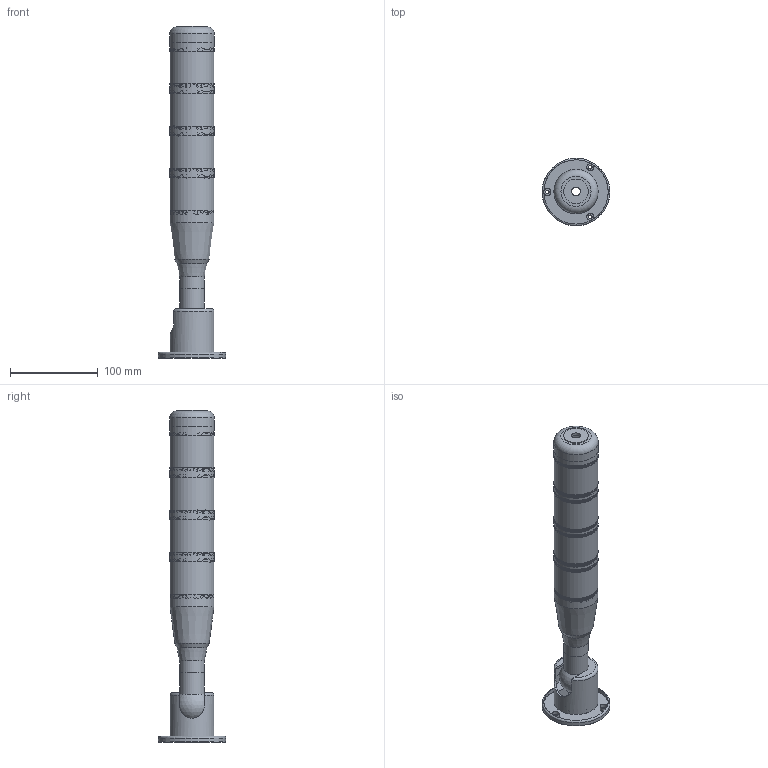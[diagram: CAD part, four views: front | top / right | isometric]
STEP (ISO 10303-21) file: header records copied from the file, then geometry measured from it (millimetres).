
FILE_DESCRIPTION(/* description */ (''),/* implementation_level */ '2;1');
FILE_NAME(/* name */ 'OLE2-401 带蜂鸣.stp',/* time_stamp */ '2022-12-13T18:01:12+08:00',/* author */ (''),/* organization */ (''),/* preprocessor_version */ 'ST-DEVELOPER v16.7',/* originating_system */ 'SIEMENS PLM Software NX 12.0',/* authorisation */ '');
FILE_SCHEMA (('AUTOMOTIVE_DESIGN { 1 0 10303 214 3 1 1 1 }'));
Products named in the file (1): Admi15EC76A1t4gq
Bounding box: 77 x 77 x 377.5 mm (x, y, z)
Volume: 190428.5 mm3; surface area: 182162.7 mm2
Topology: 15 solids, 17 shells, 2086 faces, 5038 edges, 3359 vertices
Faces by surface type: plane 1882, cylinder 116, bspline 63, cone 19, torus 4, sphere 2
Full cylindrical faces by diameter (mm): 4 x3, 8 x3, 10 x1, 17.5 x1, 18 x2, 21.5 x1, 22 x1, 23.5 x1, 24.3 x10, 28 x3, 32 x4, 34 x1, 38 x1, 42 x1, 43 x3, 44.2 x4, 45 x1, 46 x6, 46.3 x5, 47 x1, 48 x1, 50 x6, 50.3 x5, 77 x1
Entity records: 85142 total; most frequent: CARTESIAN_POINT 39252, ORIENTED_EDGE 9670, DIRECTION 8046, EDGE_CURVE 4835, LINE 3682, VECTOR 3682, VERTEX_POINT 3255, EDGE_LOOP 2544
